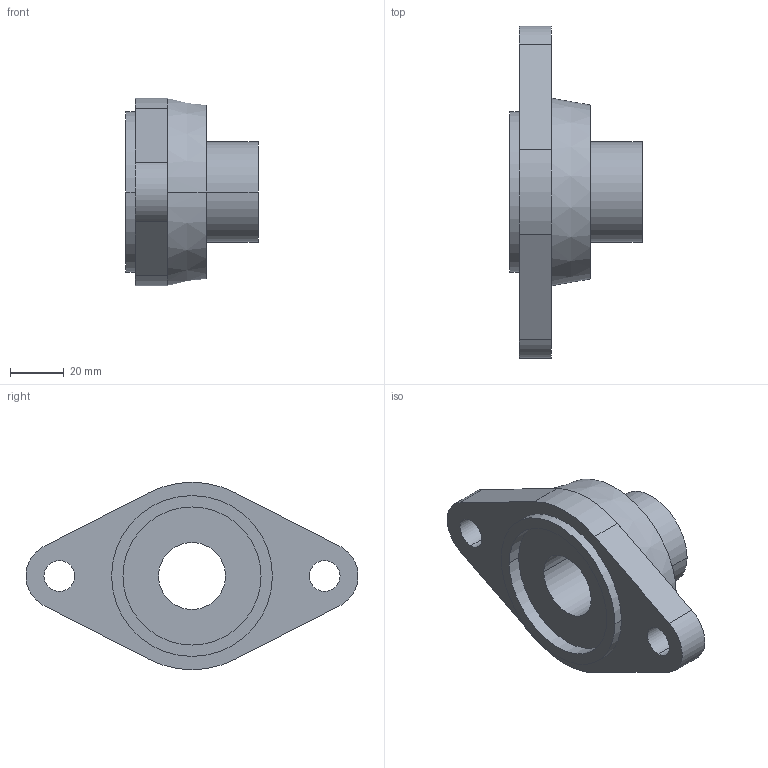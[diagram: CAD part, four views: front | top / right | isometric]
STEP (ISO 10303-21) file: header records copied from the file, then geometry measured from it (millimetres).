
FILE_DESCRIPTION(('SolidDesigner STEP Export'),'2;1');
FILE_NAME('Flanschlager_RCJTZ_25.stp','2002-07-16T10:21:02',(''),(''),'SolidDesigner STEP processor Version: 9.0 (March 2001)for AP214(CD)(Solid Model)','CoCreate SolidDesigner: 11.00 12-Dec-2001(C) CoCreate Software GmbH','');
FILE_SCHEMA(('AUTOMOTIVE_DESIGN_CC2 {1 2 10303 214 -1 1 5 1}'));
Length unit declared in the file: millimetre
Products named in the file (1): Flanschlager_RCJTZ_25
Bounding box: 49.4 x 123.91 x 70 mm (x, y, z)
Volume: 116686.4 mm3; surface area: 24234.4 mm2
Topology: 1 solids, 1 shells, 29 faces, 68 edges, 44 vertices
Faces by surface type: cylinder 16, plane 11, cone 2
Entity records: 767 total; most frequent: ORIENTED_EDGE 136, DIRECTION 120, CARTESIAN_POINT 119, EDGE_CURVE 68, AXIS2_PLACEMENT_3D 45, VERTEX_POINT 44, EDGE_LOOP 38, VECTOR 30
